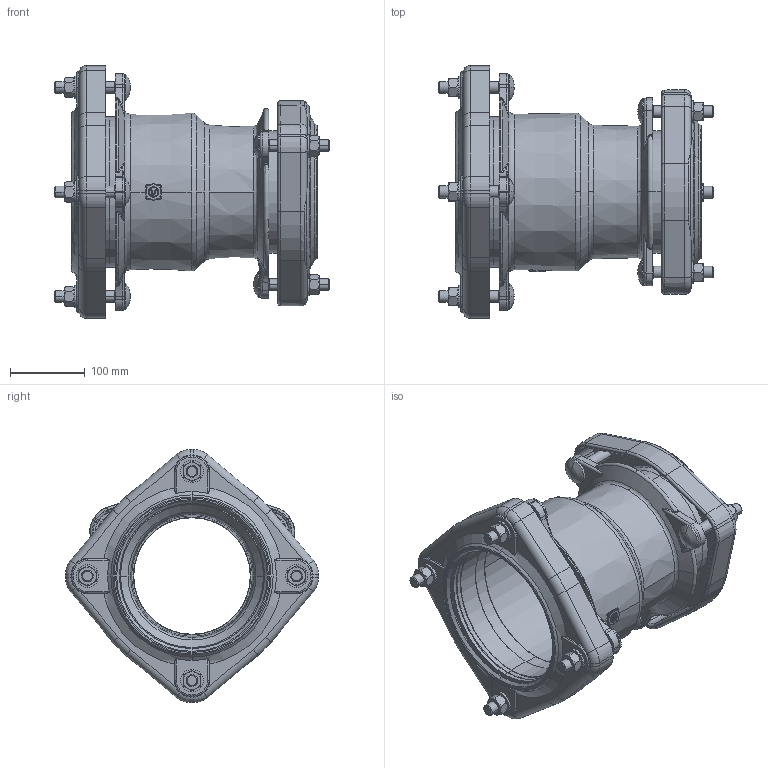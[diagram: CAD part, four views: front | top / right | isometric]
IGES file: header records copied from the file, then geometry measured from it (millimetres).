
Global section: file name: No Iges File Name specified; native system: AutoDesk Inventor R12.0; preprocessor: AutoDesk Inventor Iges Exporter R12.0; date: 20120503.094358; units: millimetre
Bounding box: 368 x 338.8 x 338.8 mm (x, y, z)
Volume: 2564331.8 mm3; surface area: 799916.2 mm2
Topology: 1 solids, 1 shells, 1273 faces, 3342 edges, 2102 vertices
Faces by surface type: plane 486, cylinder 203, revolution 192, bspline 147, cone 127, torus 118
